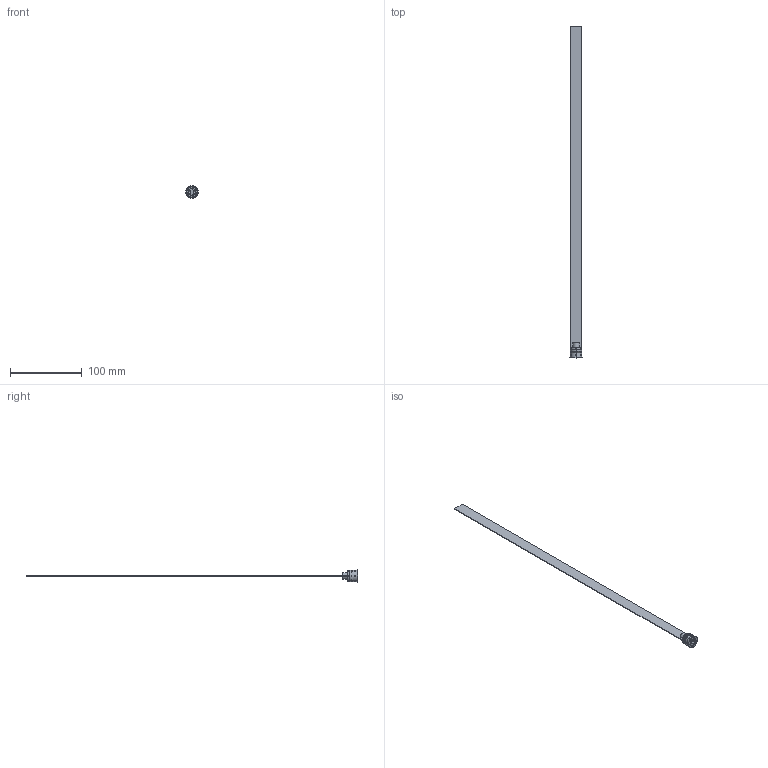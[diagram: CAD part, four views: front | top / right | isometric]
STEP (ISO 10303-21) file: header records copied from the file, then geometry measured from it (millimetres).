
FILE_DESCRIPTION (( 'STEP AP203' ), '1' );
FILE_NAME ('RL-16Fx450-15,5.STEP', '2015-12-02T14:36:57', ( 'Balzi' ), ( '' ), 'SwSTEP 2.0', 'SolidWorks 2015', '' );
FILE_SCHEMA (( 'CONFIG_CONTROL_DESIGN' ));
Length unit declared in the file: millimetre
Products named in the file (1): RL-16Fx450-15,5
Bounding box: 17.5 x 464 x 17.5 mm (x, y, z)
Volume: 9903.3 mm3; surface area: 16627 mm2
Topology: 1 solids, 1 shells, 75 faces, 177 edges, 109 vertices
Faces by surface type: plane 31, cone 19, cylinder 17, torus 8
Entity records: 2245 total; most frequent: CARTESIAN_POINT 412, DIRECTION 386, ORIENTED_EDGE 354, EDGE_CURVE 177, AXIS2_PLACEMENT_3D 147, VERTEX_POINT 109, VECTOR 92, LINE 92
